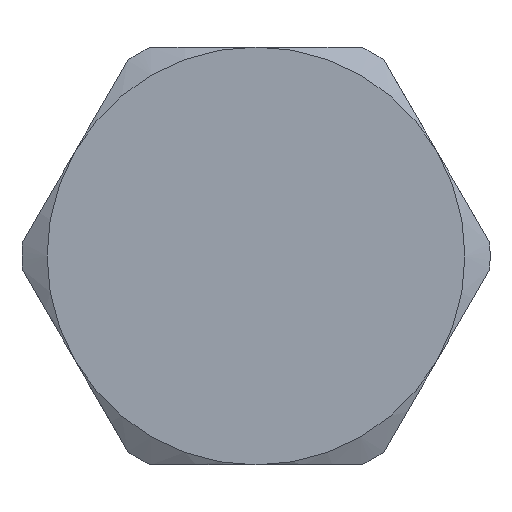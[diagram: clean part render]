
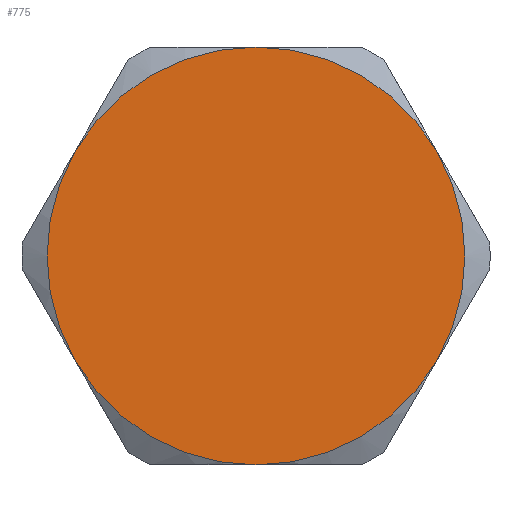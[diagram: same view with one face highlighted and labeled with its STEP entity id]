
A CAD part, left-side view. The second image highlights one B-rep face of the part: STEP entity #775.
In plain terms, the highlighted planar face has unit normal (-1, 0, 0).
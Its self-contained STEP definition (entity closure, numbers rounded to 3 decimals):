
#16 = CARTESIAN_POINT ( 'NONE',  ( -29., 0., -35. ) ) ;
#26 = CIRCLE ( 'NONE', #867, 35. ) ;
#33 = DIRECTION ( 'NONE',  ( 1., 0., 0. ) ) ;
#34 = CIRCLE ( 'NONE', #189, 35. ) ;
#35 = AXIS2_PLACEMENT_3D ( 'NONE', #599, #581, #490 ) ;
#39 = ORIENTED_EDGE ( 'NONE', *, *, #988, .F. ) ;
#40 = VERTEX_POINT ( 'NONE', #167 ) ;
#48 = DIRECTION ( 'NONE',  ( 0., 1., 0. ) ) ;
#66 = EDGE_CURVE ( 'NONE', #1018, #966, #379, .T. ) ;
#70 = CARTESIAN_POINT ( 'NONE',  ( -29., -30.311, -17.5 ) ) ;
#100 = CIRCLE ( 'NONE', #517, 35. ) ;
#153 = VERTEX_POINT ( 'NONE', #70 ) ;
#158 = DIRECTION ( 'NONE',  ( 0., 1., 0. ) ) ;
#163 = DIRECTION ( 'NONE',  ( 1., 0., 0. ) ) ;
#167 = CARTESIAN_POINT ( 'NONE',  ( -29., 30.311, 17.5 ) ) ;
#182 = EDGE_CURVE ( 'NONE', #516, #40, #26, .T. ) ;
#189 = AXIS2_PLACEMENT_3D ( 'NONE', #504, #506, #440 ) ;
#280 = CARTESIAN_POINT ( 'NONE',  ( -29., 0., 0. ) ) ;
#285 = DIRECTION ( 'NONE',  ( 0., 1., 0. ) ) ;
#296 = EDGE_LOOP ( 'NONE', ( #978, #984, #39, #393, #841, #1047 ) ) ;
#379 = CIRCLE ( 'NONE', #1060, 35. ) ;
#384 = PLANE ( 'NONE',  #35 ) ;
#387 = CIRCLE ( 'NONE', #908, 35. ) ;
#392 = CARTESIAN_POINT ( 'NONE',  ( -29., 0., 0. ) ) ;
#393 = ORIENTED_EDGE ( 'NONE', *, *, #1075, .F. ) ;
#399 = CARTESIAN_POINT ( 'NONE',  ( -29., 30.311, -17.5 ) ) ;
#416 = VERTEX_POINT ( 'NONE', #16 ) ;
#431 = AXIS2_PLACEMENT_3D ( 'NONE', #280, #163, #158 ) ;
#440 = DIRECTION ( 'NONE',  ( 0., 1., 0. ) ) ;
#490 = DIRECTION ( 'NONE',  ( 0., -1., 0. ) ) ;
#504 = CARTESIAN_POINT ( 'NONE',  ( -29., 0., 0. ) ) ;
#506 = DIRECTION ( 'NONE',  ( 1., 0., 0. ) ) ;
#516 = VERTEX_POINT ( 'NONE', #399 ) ;
#517 = AXIS2_PLACEMENT_3D ( 'NONE', #392, #929, #285 ) ;
#527 = EDGE_CURVE ( 'NONE', #966, #153, #100, .T. ) ;
#581 = DIRECTION ( 'NONE',  ( -1., 0., 0. ) ) ;
#599 = CARTESIAN_POINT ( 'NONE',  ( -29., 35., 0. ) ) ;
#611 = FACE_OUTER_BOUND ( 'NONE', #296, .T. ) ;
#620 = CARTESIAN_POINT ( 'NONE',  ( -29., 0., 35. ) ) ;
#667 = DIRECTION ( 'NONE',  ( 0., 1., 0. ) ) ;
#684 = CARTESIAN_POINT ( 'NONE',  ( -29., 0., 0. ) ) ;
#693 = DIRECTION ( 'NONE',  ( 0., 1., 0. ) ) ;
#700 = CARTESIAN_POINT ( 'NONE',  ( -29., 0., 0. ) ) ;
#703 = DIRECTION ( 'NONE',  ( 1., 0., 0. ) ) ;
#744 = DIRECTION ( 'NONE',  ( 1., 0., 0. ) ) ;
#753 = CARTESIAN_POINT ( 'NONE',  ( -29., 0., 0. ) ) ;
#759 = CARTESIAN_POINT ( 'NONE',  ( -29., -30.311, 17.5 ) ) ;
#775 = ADVANCED_FACE ( 'NONE', ( #611 ), #384, .T. ) ;
#841 = ORIENTED_EDGE ( 'NONE', *, *, #527, .F. ) ;
#867 = AXIS2_PLACEMENT_3D ( 'NONE', #753, #744, #667 ) ;
#908 = AXIS2_PLACEMENT_3D ( 'NONE', #700, #703, #693 ) ;
#909 = EDGE_CURVE ( 'NONE', #40, #1018, #1031, .T. ) ;
#929 = DIRECTION ( 'NONE',  ( 1., 0., 0. ) ) ;
#966 = VERTEX_POINT ( 'NONE', #759 ) ;
#978 = ORIENTED_EDGE ( 'NONE', *, *, #909, .F. ) ;
#984 = ORIENTED_EDGE ( 'NONE', *, *, #182, .F. ) ;
#988 = EDGE_CURVE ( 'NONE', #416, #516, #387, .T. ) ;
#1018 = VERTEX_POINT ( 'NONE', #620 ) ;
#1031 = CIRCLE ( 'NONE', #431, 35. ) ;
#1047 = ORIENTED_EDGE ( 'NONE', *, *, #66, .F. ) ;
#1060 = AXIS2_PLACEMENT_3D ( 'NONE', #684, #33, #48 ) ;
#1075 = EDGE_CURVE ( 'NONE', #153, #416, #34, .T. ) ;
